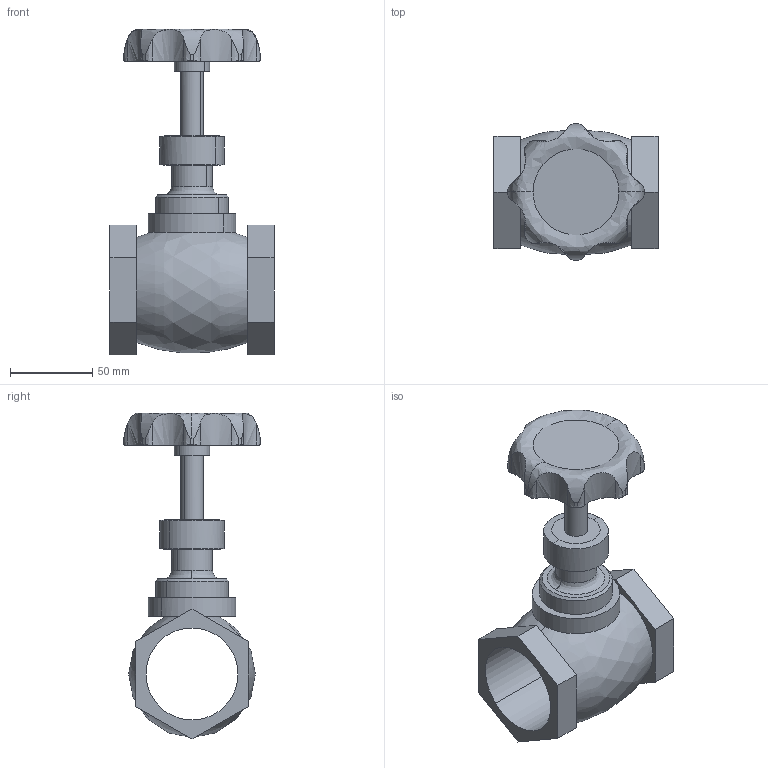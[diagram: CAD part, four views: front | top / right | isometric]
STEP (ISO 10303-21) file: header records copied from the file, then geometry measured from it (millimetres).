
FILE_DESCRIPTION((''),'2;1');
FILE_NAME('','2018-10-23T13:28:03',(''),(''),'','CADfix','');
FILE_SCHEMA(('AUTOMOTIVE_DESIGN { 1 0 10303 214 1 1 1 1 }'));
Length unit declared in the file: millimetre
Bounding box: 100 x 82.97 x 198.54 mm (x, y, z)
Volume: 327252.7 mm3; surface area: 71700 mm2
Topology: 1 solids, 1 shells, 89 faces, 299 edges, 220 vertices
Faces by surface type: bspline 89
Entity records: 5713 total; most frequent: CARTESIAN_POINT 3993, ORIENTED_EDGE 598, EDGE_CURVE 299, VERTEX_POINT 220, B_SPLINE_CURVE_WITH_KNOTS 191, EDGE_LOOP 99, FACE_OUTER_BOUND 89, ADVANCED_FACE 89
